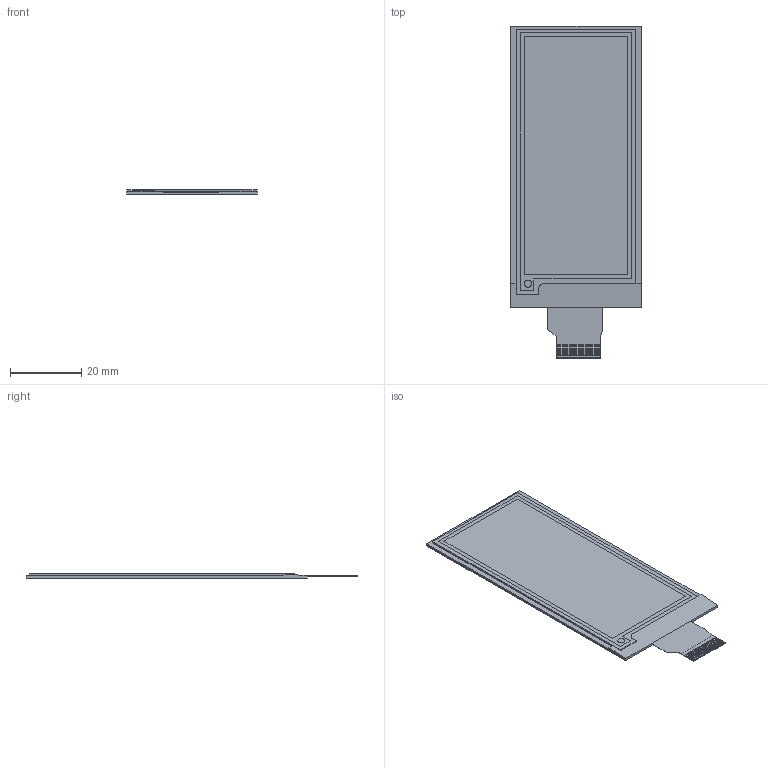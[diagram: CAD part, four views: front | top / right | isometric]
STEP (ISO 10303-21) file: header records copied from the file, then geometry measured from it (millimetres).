
FILE_DESCRIPTION (( 'STEP AP214' ), '1' );
FILE_NAME ('CFAP128296C0-0290.STEP', '2020-03-12T20:50:56', ( '' ), ( '' ), 'SwSTEP 2.0', 'SolidWorks 2015', '' );
FILE_SCHEMA (( 'AUTOMOTIVE_DESIGN' ));
Length unit declared in the file: millimetre
Products named in the file (1): CFAP128296C0-0290
Bounding box: 36.7 x 93.3 x 1.18 mm (x, y, z)
Volume: 3280 mm3; surface area: 6651.8 mm2
Topology: 26 solids, 26 shells, 275 faces, 667 edges, 447 vertices
Faces by surface type: plane 274, cylinder 1
Entity records: 10889 total; most frequent: CARTESIAN_POINT 1393, ORIENTED_EDGE 1334, DIRECTION 1221, EDGE_CURVE 667, LINE 663, VECTOR 663, VERTEX_POINT 447, AXIS2_PLACEMENT_3D 279
